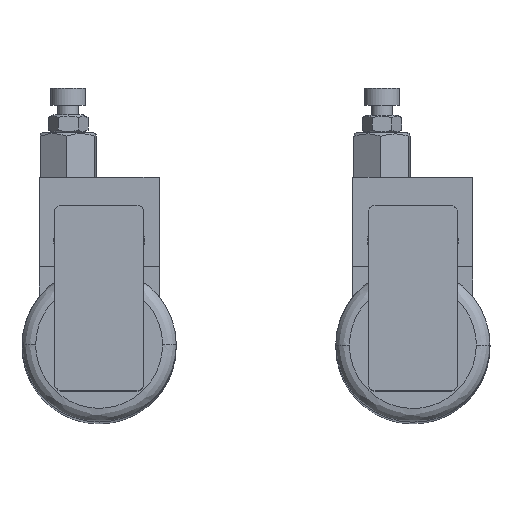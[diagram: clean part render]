
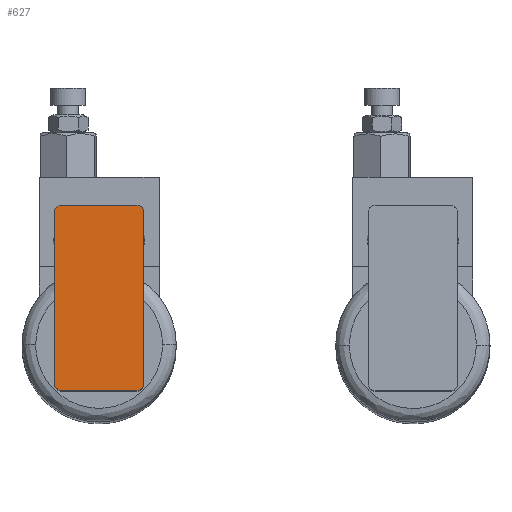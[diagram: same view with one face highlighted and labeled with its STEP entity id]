
A CAD part, top view. The second image highlights one B-rep face of the part: STEP entity #627.
In plain terms, the highlighted planar face has unit normal (0, 0, 1) as drawn and (1, 0, 0) by its records, which use the part's own axes.
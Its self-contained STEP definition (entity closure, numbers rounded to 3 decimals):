
#536 = VERTEX_POINT ( 'NONE', #4288 ) ;
#538 = EDGE_CURVE ( 'NONE', #553, #536, #4287, .T. ) ;
#553 = VERTEX_POINT ( 'NONE', #4323 ) ;
#555 = EDGE_CURVE ( 'NONE', #556, #553, #4322, .T. ) ;
#556 = VERTEX_POINT ( 'NONE', #4317 ) ;
#566 = EDGE_CURVE ( 'NONE', #584, #647, #4347, .T. ) ;
#584 = VERTEX_POINT ( 'NONE', #4380 ) ;
#586 = EDGE_CURVE ( 'NONE', #597, #584, #4379, .T. ) ;
#591 = EDGE_CURVE ( 'NONE', #592, #556, #4433, .T. ) ;
#592 = VERTEX_POINT ( 'NONE', #4429 ) ;
#596 = EDGE_CURVE ( 'NONE', #536, #597, #4423, .T. ) ;
#597 = VERTEX_POINT ( 'NONE', #4418 ) ;
#615 = ORIENTED_EDGE ( 'NONE', *, *, #586, .T. ) ;
#627 = ADVANCED_FACE ( 'NONE', ( #4439 ), #4435, .T. ) ;
#628 = EDGE_LOOP ( 'NONE', ( #629, #630, #633, #635, #636, #637, #638, #615 ) ) ;
#629 = ORIENTED_EDGE ( 'NONE', *, *, #566, .T. ) ;
#630 = ORIENTED_EDGE ( 'NONE', *, *, #631, .T. ) ;
#631 = EDGE_CURVE ( 'NONE', #647, #632, #4492, .T. ) ;
#632 = VERTEX_POINT ( 'NONE', #4488 ) ;
#633 = ORIENTED_EDGE ( 'NONE', *, *, #634, .F. ) ;
#634 = EDGE_CURVE ( 'NONE', #592, #632, #4487, .T. ) ;
#635 = ORIENTED_EDGE ( 'NONE', *, *, #591, .T. ) ;
#636 = ORIENTED_EDGE ( 'NONE', *, *, #555, .T. ) ;
#637 = ORIENTED_EDGE ( 'NONE', *, *, #538, .T. ) ;
#638 = ORIENTED_EDGE ( 'NONE', *, *, #596, .T. ) ;
#647 = VERTEX_POINT ( 'NONE', #4472 ) ;
#4284 = DIRECTION ( 'NONE',  ( 0., -1., 0. ) ) ;
#4285 = VECTOR ( 'NONE', #4284, 1000. ) ;
#4286 = CARTESIAN_POINT ( 'NONE',  ( 57.75, 27., 13. ) ) ;
#4287 = LINE ( 'NONE', #4286, #4285 ) ;
#4288 = CARTESIAN_POINT ( 'NONE',  ( 57.75, -25., 13. ) ) ;
#4317 = CARTESIAN_POINT ( 'NONE',  ( 57.75, 27., 11. ) ) ;
#4318 = DIRECTION ( 'NONE',  ( 0., 1., 0. ) ) ;
#4319 = DIRECTION ( 'NONE',  ( 1., 0., 0. ) ) ;
#4320 = CARTESIAN_POINT ( 'NONE',  ( 57.75, 25., 11. ) ) ;
#4321 = AXIS2_PLACEMENT_3D ( 'NONE', #4320, #4319, #4318 ) ;
#4322 = CIRCLE ( 'NONE', #4321, 2. ) ;
#4323 = CARTESIAN_POINT ( 'NONE',  ( 57.75, 25., 13. ) ) ;
#4344 = DIRECTION ( 'NONE',  ( 0., 0., -1. ) ) ;
#4345 = DIRECTION ( 'NONE',  ( 1., 0., 0. ) ) ;
#4346 = AXIS2_PLACEMENT_3D ( 'NONE', #4366, #4345, #4344 ) ;
#4347 = CIRCLE ( 'NONE', #4346, 2. ) ;
#4366 = CARTESIAN_POINT ( 'NONE',  ( 57.75, -25., -11. ) ) ;
#4376 = DIRECTION ( 'NONE',  ( 0., 0., -1. ) ) ;
#4377 = VECTOR ( 'NONE', #4376, 1000. ) ;
#4378 = CARTESIAN_POINT ( 'NONE',  ( 57.75, -27., 0. ) ) ;
#4379 = LINE ( 'NONE', #4378, #4377 ) ;
#4380 = CARTESIAN_POINT ( 'NONE',  ( 57.75, -27., -11. ) ) ;
#4418 = CARTESIAN_POINT ( 'NONE',  ( 57.75, -27., 11. ) ) ;
#4419 = DIRECTION ( 'NONE',  ( 0., 0., 1. ) ) ;
#4420 = DIRECTION ( 'NONE',  ( 1., 0., 0. ) ) ;
#4421 = CARTESIAN_POINT ( 'NONE',  ( 57.75, -25., 11. ) ) ;
#4422 = AXIS2_PLACEMENT_3D ( 'NONE', #4421, #4420, #4419 ) ;
#4423 = CIRCLE ( 'NONE', #4422, 2. ) ;
#4429 = CARTESIAN_POINT ( 'NONE',  ( 57.75, 27., -11. ) ) ;
#4430 = DIRECTION ( 'NONE',  ( 0., 0., 1. ) ) ;
#4431 = VECTOR ( 'NONE', #4430, 1000. ) ;
#4432 = CARTESIAN_POINT ( 'NONE',  ( 57.75, 27., 0. ) ) ;
#4433 = LINE ( 'NONE', #4432, #4431 ) ;
#4434 = CARTESIAN_POINT ( 'NONE',  ( 57.75, 27., 0. ) ) ;
#4435 = PLANE ( 'NONE',  #4495 ) ;
#4439 = FACE_OUTER_BOUND ( 'NONE', #628, .T. ) ;
#4472 = CARTESIAN_POINT ( 'NONE',  ( 57.75, -25., -13. ) ) ;
#4483 = DIRECTION ( 'NONE',  ( 0., -1., 0. ) ) ;
#4484 = DIRECTION ( 'NONE',  ( -1., 0., 0. ) ) ;
#4485 = CARTESIAN_POINT ( 'NONE',  ( 57.75, 25., -11. ) ) ;
#4486 = AXIS2_PLACEMENT_3D ( 'NONE', #4485, #4484, #4483 ) ;
#4487 = CIRCLE ( 'NONE', #4486, 2. ) ;
#4488 = CARTESIAN_POINT ( 'NONE',  ( 57.75, 25., -13. ) ) ;
#4489 = DIRECTION ( 'NONE',  ( 0., 1., 0. ) ) ;
#4490 = VECTOR ( 'NONE', #4489, 1000. ) ;
#4491 = CARTESIAN_POINT ( 'NONE',  ( 57.75, 0., -13. ) ) ;
#4492 = LINE ( 'NONE', #4491, #4490 ) ;
#4493 = DIRECTION ( 'NONE',  ( 0., 0., -1. ) ) ;
#4494 = DIRECTION ( 'NONE',  ( 1., 0., 0. ) ) ;
#4495 = AXIS2_PLACEMENT_3D ( 'NONE', #4434, #4494, #4493 ) ;
